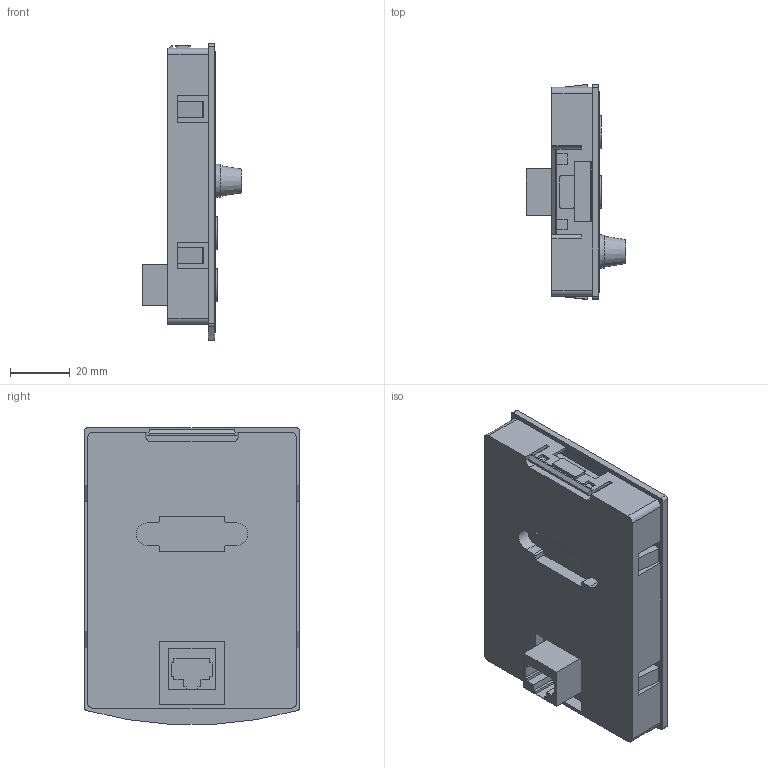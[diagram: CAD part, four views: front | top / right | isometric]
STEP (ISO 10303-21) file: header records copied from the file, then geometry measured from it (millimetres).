
FILE_DESCRIPTION(('STEP AP203'), '1');
FILE_NAME('Ïàíåëü óïðàâëåíèÿ _ VCI-KP', '', ('UNSPECIFIED'), ('UNSPECIFIED'), 'C3D Converter', 'C3D Toolkit', '');
FILE_SCHEMA(('CONFIG_CONTROL_DESIGN'));
Length unit declared in the file: millimetre
Products named in the file (1): VCI-KP
Bounding box: 33.4 x 72 x 99.41 mm (x, y, z)
Volume: 97499.6 mm3; surface area: 25097.7 mm2
Topology: 1 solids, 1 shells, 183 faces, 491 edges, 324 vertices
Faces by surface type: plane 143, cylinder 38, cone 2
Full cylindrical faces by diameter (mm): 11 x8
Entity records: 7131 total; most frequent: CARTESIAN_POINT 989, ORIENTED_EDGE 962, DIRECTION 929, EDGE_CURVE 481, LINE 401, VECTOR 401, VERTEX_POINT 324, AXIS2_PLACEMENT_3D 264
